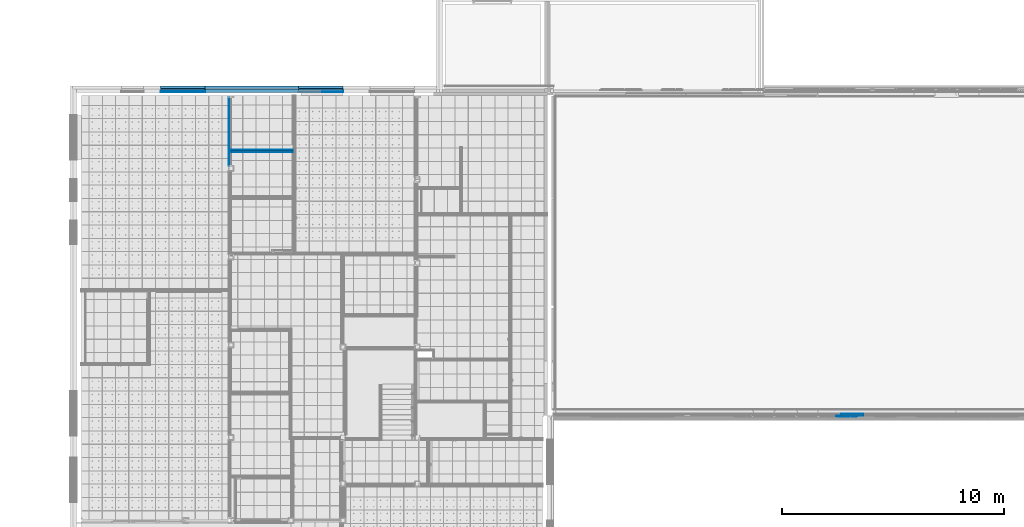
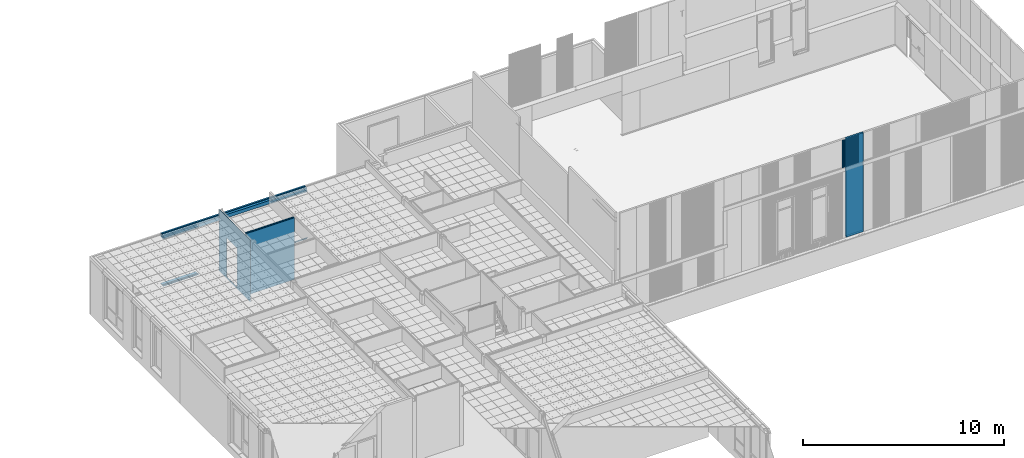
# One storey, part 93 of 338: 28 building element parts, 1 opening, 9 elements without a shape of their own.
"""IFC2X3 building model written with IfcOpenShell, lengths in millimetres."""

from ifc_helpers import new_model, entity, si_unit, converted_unit, derived_unit, money_unit, direction, frame, origin_with_axes, place, context, subcontext, project, spatial, faceted_brep, material, type_object, element, aggregate, save


model = new_model("IFC2X3")

# Units and contexts
model_context = context("Model", 3, precision=0.01, world=origin_with_axes(), true_north=direction((0.0, 1.0)))
plan_context = context("Plan", 3, precision=0.01, world=origin_with_axes(), true_north=direction((0.0, 1.0)))
body_context = subcontext(model_context, "Body", "Model", "MODEL_VIEW")
ifc_project = project(units=[si_unit("LENGTHUNIT", "METRE", prefix="MILLI"), si_unit("AREAUNIT", "SQUARE_METRE"), si_unit("VOLUMEUNIT", "CUBIC_METRE"), converted_unit("PLANEANGLEUNIT", "DEGREE", entity("IfcPlaneAngleMeasure", 0.0174532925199), si_unit("PLANEANGLEUNIT", "RADIAN"), dimensions=[0, 0, 0, 0, 0, 0, 0]), money_unit("EUR"), converted_unit("TIMEUNIT", "Year", entity("IfcTimeMeasure", 31556926.0), si_unit("TIMEUNIT", "SECOND"), dimensions=[0, 0, 1, 0, 0, 0, 0]), si_unit("MASSUNIT", "GRAM", prefix="KILO"), si_unit("THERMODYNAMICTEMPERATUREUNIT", "DEGREE_CELSIUS"), si_unit("LUMINOUSINTENSITYUNIT", "LUMEN"), si_unit("ENERGYUNIT", "JOULE", prefix="MEGA"), derived_unit("THERMALCONDUCTANCEUNIT", [(si_unit("POWERUNIT", "WATT"), 1), (si_unit("LENGTHUNIT", "METRE"), -1), (si_unit("THERMODYNAMICTEMPERATUREUNIT", "KELVIN"), -1)]), derived_unit("SPECIFICHEATCAPACITYUNIT", [(si_unit("ENERGYUNIT", "JOULE"), 1), (si_unit("MASSUNIT", "GRAM", prefix="KILO"), -1), (si_unit("THERMODYNAMICTEMPERATUREUNIT", "KELVIN"), -1)]), derived_unit("MASSDENSITYUNIT", [(si_unit("MASSUNIT", "GRAM", prefix="KILO"), 1), (si_unit("VOLUMEUNIT", "CUBIC_METRE"), -1)])], contexts=[model_context, plan_context])

# Site, building, storey
site_placement = place(None, origin_with_axes())
site = spatial("IfcSite", under=ifc_project, at=site_placement, Name="Fortuinstraat Woensdrecht", CompositionType="ELEMENT")
building_placement = place(site_placement, origin_with_axes())
building = spatial("IfcBuilding", under=site, at=building_placement, Name="IKC Fortuna", CompositionType="ELEMENT")
storey_placement = place(building_placement, origin_with_axes())
storey = spatial("IfcBuildingStorey", under=building, at=storey_placement, Name="00 begane grond", CompositionType="ELEMENT", Elevation=0.0)

# Covering, building element parts
covering_type_1 = type_object("IfcCoveringType", Name="41 Rollaag 280 x 210", PredefinedType="NOTDEFINED")
covering_1_placement = place(storey_placement, frame((23615.4349147, 35636.2966283, 2800.0), z_axis=(0.0, 0.0, 1.0), x_axis=(-1.0, 0.0, 0.0)))
covering_1 = element("IfcCovering", 1, at=covering_1_placement, inside=storey, type_object=covering_type_1, Name="41_Afwerking_Rollaag", PredefinedType="NOTDEFINED")
ifc_material_1 = material(Name="ALG - ISOLATIE")
building_element_part_1_placement = place(covering_1_placement, origin_with_axes())
building_element_part_1 = element("IfcBuildingElementPart", 2, at=building_element_part_1_placement, material=ifc_material_1, Name="ALG - ISOLATIE", context=body_context, shape_type="Brep", body=[
    faceted_brep([(4219.99991757, 0.0, 210.0), (4219.99991757, 140.0, 210.0), (0.0, 140.0, 210.0), (0.0, 0.0, 210.0), (4219.99991757, 0.0, 0.0), (4219.99991757, 140.0, 0.0), (0.0, 140.0, 0.0), (0.0, 0.0, 0.0)], [[[0, 1, 2, 3]], [[0, 4, 5, 1]], [[1, 5, 6, 2]], [[3, 2, 6, 7]], [[4, 0, 3, 7]], [[5, 4, 7, 6]]]),
])
ifc_material_2 = material(Name="Steen - Baksteen Accent Rollaag")
building_element_part_2_placement = place(covering_1_placement, origin_with_axes())
building_element_part_2 = element("IfcBuildingElementPart", 3, at=building_element_part_2_placement, material=ifc_material_2, Name="Steen - Baksteen Accent Rollaag", context=body_context, shape_type="Brep", body=[
    faceted_brep([(0.0, -140.0, 0.0), (4219.99991757, -140.0, 0.0), (4219.99991757, -140.0, 210.0), (0.0, -140.0, 210.0), (0.0, -40.0, 0.0), (4219.99991757, -40.0, 0.0), (4219.99991757, -40.0, 210.0), (0.0, -40.0, 210.0)], [[[0, 1, 2, 3]], [[4, 5, 1, 0]], [[2, 1, 5, 6]], [[3, 2, 6, 7]], [[4, 0, 3, 7]], [[7, 6, 5, 4]]]),
])
aggregate(covering_1, [building_element_part_1, building_element_part_2])

covering_type_2 = type_object("IfcCoveringType", Name="41 Latei MW rollaag 280 x 227", PredefinedType="NOTDEFINED")
covering_2_placement = place(storey_placement, frame((19395.4349971, 35636.2966283, 2800.0), z_axis=(0.0, 0.0, 1.0), x_axis=(-1.0, 0.0, 0.0)))
covering_2 = element("IfcCovering", 4, at=covering_2_placement, inside=storey, type_object=covering_type_2, Name="41_Afwerking_Latei + rollaag", PredefinedType="NOTDEFINED")
ifc_material_3 = material(Name="Isolatie - PUR gespoten")
building_element_part_3_placement = place(covering_2_placement, origin_with_axes())
building_element_part_3 = element("IfcBuildingElementPart", 5, at=building_element_part_3_placement, material=ifc_material_3, Name="Isolatie - PUR gespoten", context=body_context, shape_type="Brep", body=[
    faceted_brep([(2010.0, 139.999999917, -1.28576260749e-07), (2010.0, 127.999998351, -1.28576260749e-07), (0.0, 127.999998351, -1.28576260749e-07), (0.0, 139.999999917, -1.28576260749e-07), (2010.0, 139.999999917, 53.0000002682), (2010.0, 127.999998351, 53.0000013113), (0.0, 127.999998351, 53.0000013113), (0.0, 139.999999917, 53.0000002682)], [[[0, 1, 2, 3]], [[0, 4, 5, 1]], [[1, 5, 6, 2]], [[3, 2, 6, 7]], [[4, 0, 3, 7]], [[5, 4, 7, 6]]]),
])
ifc_material_4 = material(Name="Hout AFW")
building_element_part_4_placement = place(covering_2_placement, origin_with_axes())
building_element_part_4 = element("IfcBuildingElementPart", 6, at=building_element_part_4_placement, material=ifc_material_4, Name="Hout AFW", context=body_context, shape_type="Brep", body=[
    faceted_brep([(2010.0, 127.999998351, -1.28576260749e-07), (2010.0, 127.999998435, -17.0), (0.0, 127.999998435, -17.0), (0.0, 127.999998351, -1.28576260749e-07), (2010.0, 127.999998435, 53.0000013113), (2010.0, 83.9999988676, 53.0000013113), (2010.0, 83.9999988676, -17.0), (0.0, 83.9999988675, -17.0), (0.0, 83.9999988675, 53.0000013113), (0.0, 127.999998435, 53.0000013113)], [[[0, 1, 2, 3]], [[0, 4, 5, 6, 1]], [[1, 6, 7, 2]], [[3, 2, 7, 8, 9]], [[4, 0, 3, 9]], [[5, 4, 9, 8]], [[6, 5, 8, 7]]]),
])
building_element_part_5_placement = place(covering_2_placement, origin_with_axes())
building_element_part_5 = element("IfcBuildingElementPart", 7, at=building_element_part_5_placement, material=ifc_material_1, Name="ALG - ISOLATIE", context=body_context, shape_type="Brep", body=[
    faceted_brep([(2010.0, 83.9999988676, 53.0000013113), (2010.0, 1.06581410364e-10, 53.0), (0.0, 0.0, 53.0), (0.0, 83.9999988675, 53.0000013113), (2010.0, 140.0, 53.0), (2010.0, 140.0, 210.0), (2010.0, 1.06581410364e-10, 210.0), (0.0, 0.0, 210.0), (0.0, 140.0, 210.0), (0.0, 140.0, 53.0)], [[[0, 1, 2, 3]], [[0, 4, 5, 6, 1]], [[1, 6, 7, 2]], [[3, 2, 7, 8, 9]], [[4, 0, 3, 9]], [[5, 4, 9, 8]], [[6, 5, 8, 7]]]),
])
ifc_material_5 = material(Name="Metaal - Staal AFW")
building_element_part_6_placement = place(covering_2_placement, origin_with_axes())
building_element_part_6 = element("IfcBuildingElementPart", 8, at=building_element_part_6_placement, material=ifc_material_5, Name="Metaal - Staal AFW", context=body_context, shape_type="Brep", body=[
    faceted_brep([(0.0, -19.6522464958, 0.0), (0.0, -19.6522464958, 4.0), (0.0, 58.0, 4.0), (0.0, 58.0, 0.0), (2010.0, -19.6522464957, 4.0), (2010.0, -19.6522464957, 0.0), (2010.0, 58.0000000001, 4.0), (2010.0, 58.0000000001, 0.0)], [[[0, 1, 2, 3]], [[4, 1, 0, 5]], [[1, 4, 6, 2]], [[2, 6, 7, 3]], [[5, 0, 3, 7]], [[4, 5, 7, 6]]]),
    faceted_brep([(0.0, -30.0664600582, 4.0), (0.0, -31.7233143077, 0.0), (0.0, -32.0, 0.0), (0.0, -32.0, 4.0), (2010.0, -31.7233143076, 0.0), (2010.0, -30.0664600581, 4.0), (2010.0, -31.9999999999, 0.0), (2010.0, -31.9999999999, 4.0)], [[[0, 1, 2, 3]], [[4, 1, 0, 5]], [[1, 4, 6, 2]], [[2, 6, 7, 3]], [[5, 0, 3, 7]], [[4, 5, 7, 6]]]),
])
building_element_part_7_placement = place(covering_2_placement, origin_with_axes())
building_element_part_7 = element("IfcBuildingElementPart", 9, at=building_element_part_7_placement, material=ifc_material_2, Name="Steen - Baksteen Accent Rollaag", context=body_context, shape_type="Brep", body=[
    faceted_brep([(0.0, -40.0, 210.0), (2010.0, -39.9999999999, 210.0), (2010.0, -39.9999999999, 0.0), (0.0, -40.0, 0.0), (0.0, -140.0, 210.0), (2010.0, -140.0, 210.0), (2010.0, -140.0, 0.0), (2010.0, -115.609685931, 0.0), (0.0, -115.609685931, 0.0), (0.0, -140.0, 0.0)], [[[0, 1, 2, 3]], [[4, 5, 1, 0]], [[2, 1, 5, 6, 7]], [[3, 2, 7, 8]], [[4, 0, 3, 8, 9]], [[9, 6, 5, 4]], [[8, 7, 6, 9]]]),
])
ifc_material_6 = material(Name="Metaal - Staal C")
building_element_part_8_placement = place(covering_2_placement, origin_with_axes())
building_element_part_8 = element("IfcBuildingElementPart", 10, at=building_element_part_8_placement, material=ifc_material_6, Name="Metaal - Staal C", context=body_context, shape_type="Brep", body=[
    faceted_brep([(0.0, -19.6522464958, 117.347753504), (0.0, -19.6522464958, 120.652246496), (0.0, -18.0000000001, 119.0), (2010.0, -19.6522464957, 120.652246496), (2010.0, -19.6522464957, 117.347753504), (2010.0, -18.0, 119.0)], [[[0, 1, 2]], [[3, 1, 0, 4]], [[1, 3, 5, 2]], [[4, 0, 2, 5]], [[3, 4, 5]]]),
    faceted_brep([(2010.0, -29.6522464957, 112.931255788), (0.0, -29.6522464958, 112.931255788), (0.0, -36.0000000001, 106.530733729), (2010.0, -36.0, 106.530733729), (0.0, -29.6522464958, 107.347753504), (2010.0, -29.6522464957, 107.347753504), (0.0, -32.0, 105.0), (0.0, -32.0, 4.0), (0.0, -32.0, 0.0), (0.0, -33.1715728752, -2.82842712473), (0.0, -36.0, -4.0), (0.0, -115.215535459, -4.0), (0.0, -135.215535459, -8.0), (0.0, -136.0, -4.07767729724), (0.0, -115.609685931, 0.0), (0.0, -40.0, 0.0), (0.0, -37.1715728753, 1.17157287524), (0.0, -36.0000000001, 3.99999999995), (2010.0, -36.0, 3.99999999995), (2010.0, -37.1715728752, 1.17157287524), (2010.0, -39.9999999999, 0.0), (2010.0, -115.609685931, 0.0), (2010.0, -136.0, -4.07767729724), (2010.0, -135.215535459, -8.0), (2010.0, -115.215535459, -4.0), (2010.0, -35.9999999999, -4.0), (2010.0, -33.1715728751, -2.82842712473), (2010.0, -31.9999999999, 0.0), (2010.0, -31.9999999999, 4.0), (2010.0, -31.9999999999, 105.0)], [[[0, 1, 2, 3]], [[4, 1, 0, 5]], [[1, 4, 6, 7, 8, 9, 10, 11, 12, 13, 14, 15, 16, 17, 2]], [[17, 18, 3, 2]], [[5, 0, 3, 18, 19, 20, 21, 22, 23, 24, 25, 26, 27, 28, 29]], [[4, 5, 29, 6]], [[6, 29, 28, 7]], [[7, 28, 27, 8]], [[8, 27, 26, 9]], [[9, 26, 25, 10]], [[10, 25, 24, 11]], [[11, 24, 23, 12]], [[12, 23, 22, 13]], [[13, 22, 21, 14]], [[14, 21, 20, 15]], [[15, 20, 19, 16]], [[16, 19, 18, 17]]]),
])
aggregate(covering_2, [building_element_part_3, building_element_part_4, building_element_part_5, building_element_part_6, building_element_part_7, building_element_part_8])

# Wall, opening, building element part
wall_type_1 = type_object("IfcWallType", Name="MS125 2.75.2A 125", PredefinedType="NOTDEFINED")
wall_1_placement = place(storey_placement, frame((20451.9349765, 35284.7966282, -90.0), z_axis=(0.0, 0.0, 1.0), x_axis=(0.0, -1.0, 0.0)))
wall_1 = element("IfcWall", 11, at=wall_1_placement, inside=storey, type_object=wall_type_1, Name="22_Wand_Binnenwand")
opening_placement = place(wall_1_placement, frame((1254.4828999, 0.0, 90.0), z_axis=(0.0, 0.0, 1.0), x_axis=(1.0, 0.0, 0.0)))
element("IfcOpeningElement", 12, at=opening_placement, cuts=wall_1, Name="32_Deur_h.01b", context=body_context, shape_type="Brep", body=[
    faceted_brep([(-517.0, 250.0, 2367.0), (-517.0, 250.0, 0.0), (-517.0, 21.0, 0.0), (-517.0, 21.0, 2367.0), (517.0, 250.0, 2367.0), (517.0, 250.0, 0.0), (517.0, 21.0, 0.0), (517.0, 21.0, 2367.0)], [[[0, 1, 2, 3]], [[0, 4, 5, 1]], [[1, 5, 6, 2]], [[3, 2, 6, 7]], [[4, 0, 3, 7]], [[5, 4, 7, 6]]]),
    faceted_brep([(-517.0, -125.0, 0.0), (-517.0, -125.0, 2367.0), (-517.0, 21.0, 2367.0), (-517.0, 21.0, 0.0), (517.0, -125.0, 0.0), (517.0, -125.0, 2367.0), (517.0, 21.0, 2367.0), (517.0, 21.0, 0.0)], [[[0, 1, 2, 3]], [[0, 4, 5, 1]], [[1, 5, 6, 2]], [[3, 2, 6, 7]], [[4, 0, 3, 7]], [[5, 4, 7, 6]]]),
])
ifc_material_7 = material(Name="Gipsplaat")
building_element_part_9_placement = place(wall_1_placement, origin_with_axes())
building_element_part_9 = element("IfcBuildingElementPart", 13, at=building_element_part_9_placement, material=ifc_material_7, Name="Gipsplaat", context=body_context, shape_type="Brep", body=[
    faceted_brep([(737.482899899, 12.5, 90.0), (737.482899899, 25.0, 90.0), (737.482899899, 25.0, 2457.0), (737.482899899, 12.5, 2457.0), (1771.4828999, 25.0, 90.0), (1771.4828999, 12.5, 90.0), (0.0, 25.0, 0.0), (0.0, 25.0, 3740.0), (3094.99999998, 25.0, 3740.0), (3094.99999998, 25.0, 0.0), (1771.4828999, 25.0, 2457.0), (1771.4828999, 12.5, 2457.0), (0.0, 12.5, 3740.0), (0.0, 12.5, 0.0), (3094.99999998, 12.5, 0.0), (3094.99999998, 12.5, 3740.0)], [[[0, 1, 2, 3]], [[4, 1, 0, 5]], [[6, 7, 8, 9], [4, 10, 2, 1]], [[3, 2, 10, 11]], [[12, 13, 14, 15], [0, 3, 11, 5]], [[10, 4, 5, 11]], [[6, 13, 12, 7]], [[7, 12, 15, 8]], [[9, 8, 15, 14]], [[13, 6, 9, 14]]]),
])
aggregate(wall_1, [building_element_part_9])

# Wall, building element parts
wall_2_placement = place(storey_placement, frame((20569.4349765, 32782.3118503, -90.0), z_axis=(0.0, 0.0, 1.0), x_axis=(1.0, 0.0, 0.0)))
wall_2 = element("IfcWall", 14, at=wall_2_placement, inside=storey, type_object=wall_type_1, Name="22_Wand_Binnenwand")
building_element_part_10_placement = place(wall_2_placement, origin_with_axes())
building_element_part_10 = element("IfcBuildingElementPart", 15, at=building_element_part_10_placement, material=ifc_material_7, Name="Gipsplaat", context=body_context, shape_type="Brep", body=[
    faceted_brep([(2774.92003444, 125.0, 3740.0), (0.0, 125.0, 3740.0), (0.0, 112.5, 3740.0), (2774.92003444, 112.5, 3740.0), (2774.92003444, 125.0, 0.0), (0.0, 125.0, 0.0), (0.0, 112.5, 0.0), (2774.92003444, 112.5, 0.0)], [[[0, 1, 2, 3]], [[4, 5, 1, 0]], [[2, 1, 5, 6]], [[3, 2, 6, 7]], [[3, 7, 4, 0]], [[7, 6, 5, 4]]]),
])
building_element_part_11_placement = place(wall_2_placement, origin_with_axes())
building_element_part_11 = element("IfcBuildingElementPart", 16, at=building_element_part_11_placement, material=ifc_material_7, Name="Gipsplaat", context=body_context, shape_type="Brep", body=[
    faceted_brep([(2774.92003444, 112.5, 3740.0), (0.0, 112.5, 3740.0), (0.0, 100.0, 3740.0), (2774.92003444, 100.0, 3740.0), (2774.92003444, 112.5, 0.0), (0.0, 112.5, 0.0), (0.0, 100.0, 0.0), (2774.92003444, 100.0, 0.0)], [[[0, 1, 2, 3]], [[4, 5, 1, 0]], [[2, 1, 5, 6]], [[3, 2, 6, 7]], [[3, 7, 4, 0]], [[7, 6, 5, 4]]]),
])
ifc_material_8 = material(Name="Isolatie - Steenwol LSW")
building_element_part_12_placement = place(wall_2_placement, origin_with_axes())
building_element_part_12 = element("IfcBuildingElementPart", 17, at=building_element_part_12_placement, material=ifc_material_8, Name="Isolatie - Steenwol LSW", context=body_context, shape_type="Brep", body=[
    faceted_brep([(2774.92003444, 100.0, 3740.0), (0.0, 100.0, 3740.0), (0.0, 25.0, 3740.0), (2774.92003444, 25.0, 3740.0), (2774.92003444, 100.0, 0.0), (0.0, 100.0, 0.0), (0.0, 25.0, 0.0), (2774.92003444, 25.0, 0.0)], [[[0, 1, 2, 3]], [[4, 5, 1, 0]], [[2, 1, 5, 6]], [[3, 2, 6, 7]], [[3, 7, 4, 0]], [[7, 6, 5, 4]]]),
])
building_element_part_13_placement = place(wall_2_placement, origin_with_axes())
building_element_part_13 = element("IfcBuildingElementPart", 18, at=building_element_part_13_placement, material=ifc_material_7, Name="Gipsplaat", context=body_context, shape_type="Brep", body=[
    faceted_brep([(2774.92003444, 25.0, 3740.0), (0.0, 25.0, 3740.0), (0.0, 12.5, 3740.0), (2774.92003444, 12.5, 3740.0), (2774.92003444, 25.0, 0.0), (0.0, 25.0, 0.0), (0.0, 12.5, 0.0), (2774.92003444, 12.5, 0.0)], [[[0, 1, 2, 3]], [[4, 5, 1, 0]], [[2, 1, 5, 6]], [[3, 2, 6, 7]], [[3, 7, 4, 0]], [[7, 6, 5, 4]]]),
])
building_element_part_14_placement = place(wall_2_placement, origin_with_axes())
building_element_part_14 = element("IfcBuildingElementPart", 19, at=building_element_part_14_placement, material=ifc_material_7, Name="Gipsplaat", context=body_context, shape_type="Brep", body=[
    faceted_brep([(2774.92003444, 12.5, 3740.0), (0.0, 12.5, 3740.0), (0.0, 0.0, 3740.0), (2774.92003444, 0.0, 3740.0), (2774.92003444, 12.5, 0.0), (0.0, 12.5, 0.0), (0.0, 0.0, 0.0), (2774.92003444, 0.0, 0.0)], [[[0, 1, 2, 3]], [[4, 5, 1, 0]], [[2, 1, 5, 6]], [[3, 2, 6, 7]], [[3, 7, 4, 0]], [[7, 6, 5, 4]]]),
])
aggregate(wall_2, [building_element_part_10, building_element_part_11, building_element_part_12, building_element_part_13, building_element_part_14])

# Covering, building element parts
covering_3_placement = place(storey_placement, frame((25625.4349147, 35636.2966283, 2800.0), z_axis=(0.0, 0.0, 1.0), x_axis=(-1.0, 0.0, 0.0)))
covering_3 = element("IfcCovering", 20, at=covering_3_placement, inside=storey, type_object=covering_type_2, Name="41_Afwerking_Latei + rollaag", PredefinedType="NOTDEFINED")
building_element_part_15_placement = place(covering_3_placement, origin_with_axes())
building_element_part_15 = element("IfcBuildingElementPart", 21, at=building_element_part_15_placement, material=ifc_material_3, Name="Isolatie - PUR gespoten", context=body_context, shape_type="Brep", body=[
    faceted_brep([(2010.0, 139.999999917, -1.28576260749e-07), (2010.0, 127.999998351, -1.28576260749e-07), (0.0, 127.999998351, -1.28576260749e-07), (0.0, 139.999999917, -1.28576260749e-07), (2010.0, 139.999999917, 53.0000002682), (2010.0, 127.999998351, 53.0000013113), (0.0, 127.999998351, 53.0000013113), (0.0, 139.999999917, 53.0000002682)], [[[0, 1, 2, 3]], [[0, 4, 5, 1]], [[1, 5, 6, 2]], [[3, 2, 6, 7]], [[4, 0, 3, 7]], [[5, 4, 7, 6]]]),
])
building_element_part_16_placement = place(covering_3_placement, origin_with_axes())
building_element_part_16 = element("IfcBuildingElementPart", 22, at=building_element_part_16_placement, material=ifc_material_4, Name="Hout AFW", context=body_context, shape_type="Brep", body=[
    faceted_brep([(2010.0, 127.999998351, -1.28576260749e-07), (2010.0, 127.999998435, -17.0), (0.0, 127.999998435, -17.0), (0.0, 127.999998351, -1.28576260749e-07), (2010.0, 127.999998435, 53.0000013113), (2010.0, 83.9999988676, 53.0000013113), (2010.0, 83.9999988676, -17.0), (0.0, 83.9999988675, -17.0), (0.0, 83.9999988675, 53.0000013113), (0.0, 127.999998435, 53.0000013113)], [[[0, 1, 2, 3]], [[0, 4, 5, 6, 1]], [[1, 6, 7, 2]], [[3, 2, 7, 8, 9]], [[4, 0, 3, 9]], [[5, 4, 9, 8]], [[6, 5, 8, 7]]]),
])
building_element_part_17_placement = place(covering_3_placement, origin_with_axes())
building_element_part_17 = element("IfcBuildingElementPart", 23, at=building_element_part_17_placement, material=ifc_material_1, Name="ALG - ISOLATIE", context=body_context, shape_type="Brep", body=[
    faceted_brep([(2010.0, 83.9999988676, 53.0000013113), (2010.0, 1.06581410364e-10, 53.0), (0.0, 0.0, 53.0), (0.0, 83.9999988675, 53.0000013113), (2010.0, 140.0, 53.0), (2010.0, 140.0, 210.0), (2010.0, 1.06581410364e-10, 210.0), (0.0, 0.0, 210.0), (0.0, 140.0, 210.0), (0.0, 140.0, 53.0)], [[[0, 1, 2, 3]], [[0, 4, 5, 6, 1]], [[1, 6, 7, 2]], [[3, 2, 7, 8, 9]], [[4, 0, 3, 9]], [[5, 4, 9, 8]], [[6, 5, 8, 7]]]),
])
building_element_part_18_placement = place(covering_3_placement, origin_with_axes())
building_element_part_18 = element("IfcBuildingElementPart", 24, at=building_element_part_18_placement, material=ifc_material_5, Name="Metaal - Staal AFW", context=body_context, shape_type="Brep", body=[
    faceted_brep([(0.0, -19.6522464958, 0.0), (0.0, -19.6522464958, 4.0), (0.0, 58.0, 4.0), (0.0, 58.0, 0.0), (2010.0, -19.6522464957, 4.0), (2010.0, -19.6522464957, 0.0), (2010.0, 58.0000000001, 4.0), (2010.0, 58.0000000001, 0.0)], [[[0, 1, 2, 3]], [[4, 1, 0, 5]], [[1, 4, 6, 2]], [[2, 6, 7, 3]], [[5, 0, 3, 7]], [[4, 5, 7, 6]]]),
    faceted_brep([(0.0, -30.0664600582, 4.0), (0.0, -31.7233143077, 0.0), (0.0, -32.0, 0.0), (0.0, -32.0, 4.0), (2010.0, -31.7233143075, 0.0), (2010.0, -30.0664600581, 4.0), (2010.0, -31.9999999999, 0.0), (2010.0, -31.9999999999, 4.0)], [[[0, 1, 2, 3]], [[4, 1, 0, 5]], [[1, 4, 6, 2]], [[2, 6, 7, 3]], [[5, 0, 3, 7]], [[4, 5, 7, 6]]]),
])
building_element_part_19_placement = place(covering_3_placement, origin_with_axes())
building_element_part_19 = element("IfcBuildingElementPart", 25, at=building_element_part_19_placement, material=ifc_material_2, Name="Steen - Baksteen Accent Rollaag", context=body_context, shape_type="Brep", body=[
    faceted_brep([(0.0, -40.0, 210.0), (2010.0, -39.9999999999, 210.0), (2010.0, -39.9999999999, 0.0), (0.0, -40.0, 0.0), (0.0, -140.0, 210.0), (2010.0, -140.0, 210.0), (2010.0, -140.0, 0.0), (2010.0, -115.609685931, 0.0), (0.0, -115.609685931, 0.0), (0.0, -140.0, 0.0)], [[[0, 1, 2, 3]], [[4, 5, 1, 0]], [[2, 1, 5, 6, 7]], [[3, 2, 7, 8]], [[4, 0, 3, 8, 9]], [[9, 6, 5, 4]], [[8, 7, 6, 9]]]),
])
aggregate(covering_3, [building_element_part_15, building_element_part_16, building_element_part_17, building_element_part_18, building_element_part_19])

# Wall, building element parts
wall_type_2 = type_object("IfcWallType", Name="21 sandwich 100", PredefinedType="NOTDEFINED")
wall_3_placement = place(storey_placement, frame((49093.4131798, 20996.2966283, 1000.0), z_axis=(0.0, 0.0, 1.0), x_axis=(-1.0, 0.0, 0.0)))
wall_3 = element("IfcWall", 26, at=wall_3_placement, inside=storey, type_object=wall_type_2, Name="21_Wand_sandwichplaat")
ifc_material_9 = material(Name="Metaal - Aluminium")
building_element_part_20_placement = place(wall_3_placement, origin_with_axes())
building_element_part_20 = element("IfcBuildingElementPart", 27, at=building_element_part_20_placement, material=ifc_material_9, Name="Metaal - Aluminium", context=body_context, shape_type="Brep", body=[
    faceted_brep([(0.0, 99.0, 6000.0), (1000.0, 99.0, 6000.0), (1000.0, 100.0, 6000.0), (0.0, 100.0, 6000.0), (0.0, 99.0, 0.0), (1000.0, 99.0, 0.0), (1000.0, 100.0, 0.0), (0.0, 100.0, 0.0)], [[[0, 1, 2, 3]], [[4, 5, 1, 0]], [[2, 1, 5, 6]], [[3, 2, 6, 7]], [[4, 0, 3, 7]], [[7, 6, 5, 4]]]),
])
ifc_material_10 = material(Name="Isolatie - Kunststof hard")
building_element_part_21_placement = place(wall_3_placement, origin_with_axes())
building_element_part_21 = element("IfcBuildingElementPart", 28, at=building_element_part_21_placement, material=ifc_material_10, Name="Isolatie - Kunststof hard", context=body_context, shape_type="Brep", body=[
    faceted_brep([(1000.0, 1.0, 6000.0), (1000.0, 99.0, 6000.0), (0.0, 99.0, 6000.0), (0.0, 1.0, 6000.0), (1000.0, 1.0, 0.0), (1000.0, 99.0, 0.0), (0.0, 99.0, 0.0), (0.0, 1.0, 0.0)], [[[0, 1, 2, 3]], [[0, 4, 5, 1]], [[1, 5, 6, 2]], [[3, 2, 6, 7]], [[4, 0, 3, 7]], [[5, 4, 7, 6]]]),
])
building_element_part_22_placement = place(wall_3_placement, origin_with_axes())
building_element_part_22 = element("IfcBuildingElementPart", 29, at=building_element_part_22_placement, material=ifc_material_9, Name="Metaal - Aluminium", context=body_context, shape_type="Brep", body=[
    faceted_brep([(1000.0, 1.0, 6000.0), (1000.0, 0.999999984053, 18.9261694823), (0.0, 0.999999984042, 18.9261694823), (0.0, 1.0, 6000.0), (1000.0, 0.0, 18.9263474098), (1000.0, 0.0, 6000.0), (0.0, 0.0, 18.9263474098), (0.0, 0.0, 6000.0)], [[[0, 1, 2, 3]], [[4, 1, 0, 5]], [[1, 4, 6, 2]], [[3, 2, 6, 7]], [[5, 0, 3, 7]], [[4, 5, 7, 6]]]),
])
aggregate(wall_3, [building_element_part_20, building_element_part_21, building_element_part_22])

# Covering, building element part
covering_type_3 = type_object("IfcCoveringType", Name="41 dorpel d bi 280 x 95", PredefinedType="NOTDEFINED")
covering_4_placement = place(storey_placement, frame((24582.4349147, 35636.2966283, -2.5), z_axis=(0.0, 0.0, 1.0), x_axis=(1.0, 0.0, 0.0)))
covering_4 = element("IfcCovering", 30, at=covering_4_placement, inside=storey, type_object=covering_type_3, Name="41_Afwerking_Waterslag", PredefinedType="NOTDEFINED")
building_element_part_23_placement = place(covering_4_placement, origin_with_axes())
building_element_part_23 = element("IfcBuildingElementPart", 31, at=building_element_part_23_placement, material=ifc_material_3, Name="Isolatie - PUR gespoten", context=body_context, shape_type="Brep", body=[
    faceted_brep([(1043.0, -140.0, 2.49999821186), (1043.0, -129.999999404, 2.49999821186), (0.0, -129.999999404, 2.49999821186), (0.0, -140.0, 2.49999821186), (1043.0, -140.0, -72.5), (1043.0, -129.999999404, -72.5), (0.0, -129.999999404, -72.5), (0.0, -140.0, -72.5)], [[[0, 1, 2, 3]], [[0, 4, 5, 1]], [[1, 5, 6, 2]], [[3, 2, 6, 7]], [[4, 0, 3, 7]], [[5, 4, 7, 6]]]),
])
aggregate(covering_4, [building_element_part_23])

# Covering, building element parts
covering_type_4 = type_object("IfcCoveringType", Name="41 dorpel aan peil 280 x 75", PredefinedType="NOTDEFINED")
covering_5_placement = place(storey_placement, frame((17385.4349971, 35636.2963468, -2.5), z_axis=(0.0, 0.0, 1.0), x_axis=(1.0, 0.0, 0.0)))
covering_5 = element("IfcCovering", 32, at=covering_5_placement, inside=storey, type_object=covering_type_4, Name="41_Afwerking_Waterslag", PredefinedType="NOTDEFINED")
ifc_material_11 = material(Name="Steen - Kunststeen")
building_element_part_24_placement = place(covering_5_placement, origin_with_axes())
building_element_part_24 = element("IfcBuildingElementPart", 33, at=building_element_part_24_placement, material=ifc_material_11, Name="Steen - Kunststeen", context=body_context, shape_type="Brep", body=[
    faceted_brep([(2010.0, 140.0, -39.7722078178), (2010.0, 140.0, -72.5), (0.0, 140.0, -72.5), (0.0, 140.0, -39.7722078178), (2010.0, -82.0, -19.5865456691), (2010.0, -82.0, 2.5), (2010.0, -92.0, 2.5), (2010.0, -92.0, -72.5), (0.0, -92.0, -72.5), (0.0, -92.0, 2.5), (0.0, -82.0, 2.5), (0.0, -82.0, -19.5865456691)], [[[0, 1, 2, 3]], [[0, 4, 5, 6, 7, 1]], [[1, 7, 8, 2]], [[3, 2, 8, 9, 10, 11]], [[4, 0, 3, 11]], [[5, 4, 11, 10]], [[6, 5, 10, 9]], [[7, 6, 9, 8]]]),
])
building_element_part_25_placement = place(covering_5_placement, origin_with_axes())
building_element_part_25 = element("IfcBuildingElementPart", 34, at=building_element_part_25_placement, material=ifc_material_4, Name="Hout AFW", context=body_context, shape_type="Brep", body=[
    faceted_brep([(2010.0, -92.0000008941, 2.49999865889), (2010.0, -92.0000008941, -72.5), (0.0, -92.0000008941, -72.5), (0.0, -92.0000008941, 2.49999865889), (2010.0, -130.0, 2.49999865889), (2010.0, -130.0, -72.5), (0.0, -130.0, -72.5), (0.0, -130.0, 2.49999865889)], [[[0, 1, 2, 3]], [[0, 4, 5, 1]], [[1, 5, 6, 2]], [[3, 2, 6, 7]], [[4, 0, 3, 7]], [[5, 4, 7, 6]]]),
])
building_element_part_26_placement = place(covering_5_placement, origin_with_axes())
building_element_part_26 = element("IfcBuildingElementPart", 35, at=building_element_part_26_placement, material=ifc_material_3, Name="Isolatie - PUR gespoten", context=body_context, shape_type="Brep", body=[
    faceted_brep([(2010.0, -129.999999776, -72.5), (2010.0, -139.999999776, -72.5), (0.0, -139.999999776, -72.5), (0.0, -129.999999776, -72.5), (2010.0, -129.999999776, 2.49999888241), (2010.0, -139.999999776, 2.5), (0.0, -139.999999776, 2.5), (0.0, -129.999999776, 2.49999888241)], [[[0, 1, 2, 3]], [[0, 4, 5, 1]], [[1, 5, 6, 2]], [[3, 2, 6, 7]], [[4, 0, 3, 7]], [[5, 4, 7, 6]]]),
])
aggregate(covering_5, [building_element_part_24, building_element_part_25, building_element_part_26])

# Proxy, building element parts
building_element_proxy_type = type_object("IfcBuildingElementProxyType", Name="21 Sandwich custom pyramid 946 x 37", PredefinedType="NOTDEFINED")
proxy_placement = place(storey_placement, frame((48814.9270571, 20896.2966283, 5289.99999237), z_axis=(0.0, 0.0, 1.0), x_axis=(-1.0, 0.0, 0.0)))
proxy = element("IfcBuildingElementProxy", 36, at=proxy_placement, inside=storey, type_object=building_element_proxy_type, Name="41_Generieke bekleding & afwerking buiten_sandwich custom pyramid")
building_element_part_27_placement = place(proxy_placement, origin_with_axes())
building_element_part_27 = element("IfcBuildingElementPart", 37, at=building_element_part_27_placement, material=ifc_material_9, Name="Metaal - Aluminium", context=body_context, shape_type="Brep", body=[
    faceted_brep([(0.0, 2.39999686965, 0.0), (0.0, 1.20000548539, 0.0), (0.0, 1.20000548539, 1690.00000566), (0.0, 2.39999686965, 1690.00000566), (16.7470988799, 2.39999686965, 0.0), (52.0000026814, 36.6736482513, 0.0), (88.487191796, 1.20000548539, 0.0), (107.51282048, 1.20000548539, 0.0), (143.999995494, 36.6736482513, 0.0), (180.487184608, 1.20000548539, 0.0), (199.512813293, 1.20000548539, 0.0), (236.000002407, 36.6736482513, 0.0), (272.487191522, 1.20000548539, 0.0), (291.512820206, 1.20000548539, 0.0), (327.99999522, 36.6736482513, 0.0), (364.487184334, 1.20000548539, 0.0), (383.512813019, 1.20000548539, 0.0), (420.000002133, 36.6736482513, 0.0), (456.487191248, 1.20000548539, 0.0), (460.000006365, 1.20000548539, 0.0), (477.23428491, 1.20000548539, 0.0), (485.472879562, 9.20975302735, 0.0), (486.309372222, 8.34935896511, 0.0), (477.721464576, 0.0, 0.0), (455.999997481, 0.0, 0.0), (420.000002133, 35.0000001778, 0.0), (384.000006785, 0.0, 0.0), (364.000004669, 0.0, 0.0), (327.99999522, 35.0000001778, 0.0), (291.999999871, 0.0, 0.0), (271.999997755, 0.0, 0.0), (236.000002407, 35.0000001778, 0.0), (199.999992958, 0.0, 0.0), (180.000004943, 0.0, 0.0), (143.999995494, 35.0000001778, 0.0), (108.000000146, 0.0, 0.0), (87.9999980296, 0.0, 0.0), (52.0000026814, 35.0000001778, 0.0), (17.2342926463, 1.20000548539, 0.0), (17.2342926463, 1.20000548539, 1690.00000566), (52.0000026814, 35.0000001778, 1690.00000566), (87.9999980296, 0.0, 1690.00000566), (108.000000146, 0.0, 1690.00000566), (143.999995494, 35.0000001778, 1690.00000566), (180.000004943, 0.0, 1690.00000566), (199.999992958, 0.0, 1690.00000566), (236.000002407, 35.0000001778, 1690.00000566), (271.999997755, 0.0, 1690.00000566), (291.999999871, 0.0, 1690.00000566), (327.99999522, 35.0000001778, 1690.00000566), (364.000004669, 0.0, 1690.00000566), (384.000006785, 0.0, 1690.00000566), (420.000002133, 35.0000001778, 1690.00000566), (455.999997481, 0.0, 1690.00000566), (477.721464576, 0.0, 1690.00000566), (486.309372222, 8.34935896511, 1690.00000566), (485.472879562, 9.20975302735, 1690.00000566), (477.23428491, 1.20000548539, 1690.00000566), (460.000006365, 1.20000548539, 1690.00000566), (456.487191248, 1.20000548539, 1690.00000566), (420.000002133, 36.6736482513, 1690.00000566), (383.512813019, 1.20000548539, 1690.00000566), (364.487184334, 1.20000548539, 1690.00000566), (327.99999522, 36.6736482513, 1690.00000566), (291.512820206, 1.20000548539, 1690.00000566), (272.487191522, 1.20000548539, 1690.00000566), (236.000002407, 36.6736482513, 1690.00000566), (199.512813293, 1.20000548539, 1690.00000566), (180.487184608, 1.20000548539, 1690.00000566), (143.999995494, 36.6736482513, 1690.00000566), (107.51282048, 1.20000548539, 1690.00000566), (88.487191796, 1.20000548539, 1690.00000566), (52.0000026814, 36.6736482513, 1690.00000566), (16.7470988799, 2.39999686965, 1690.00000566)], [[[0, 1, 2, 3]], [[0, 4, 5, 6, 7, 8, 9, 10, 11, 12, 13, 14, 15, 16, 17, 18, 19, 20, 21, 22, 23, 24, 25, 26, 27, 28, 29, 30, 31, 32, 33, 34, 35, 36, 37, 38, 1]], [[1, 38, 39, 2]], [[3, 2, 39, 40, 41, 42, 43, 44, 45, 46, 47, 48, 49, 50, 51, 52, 53, 54, 55, 56, 57, 58, 59, 60, 61, 62, 63, 64, 65, 66, 67, 68, 69, 70, 71, 72, 73]], [[4, 0, 3, 73]], [[5, 4, 73, 72]], [[6, 5, 72, 71]], [[7, 6, 71, 70]], [[8, 7, 70, 69]], [[9, 8, 69, 68]], [[10, 9, 68, 67]], [[11, 10, 67, 66]], [[12, 11, 66, 65]], [[13, 12, 65, 64]], [[14, 13, 64, 63]], [[15, 14, 63, 62]], [[16, 15, 62, 61]], [[17, 16, 61, 60]], [[18, 17, 60, 59]], [[19, 18, 59, 58]], [[20, 19, 58, 57]], [[21, 20, 57, 56]], [[22, 21, 56, 55]], [[23, 22, 55, 54]], [[24, 23, 54, 53]], [[25, 24, 53, 52]], [[26, 25, 52, 51]], [[27, 26, 51, 50]], [[28, 27, 50, 49]], [[29, 28, 49, 48]], [[30, 29, 48, 47]], [[31, 30, 47, 46]], [[32, 31, 46, 45]], [[33, 32, 45, 44]], [[34, 33, 44, 43]], [[35, 34, 43, 42]], [[36, 35, 42, 41]], [[37, 36, 41, 40]], [[38, 37, 40, 39]]]),
])
building_element_part_28_placement = place(proxy_placement, origin_with_axes())
building_element_part_28 = element("IfcBuildingElementPart", 38, at=building_element_part_28_placement, material=ifc_material_9, Name="Metaal - Aluminium", context=body_context, shape_type="Brep", body=[
    faceted_brep([(460.0, 1.2, 0.0), (477.234285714, 1.2, 0.0), (477.234285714, 1.2, 1690.00000566), (460.0, 1.2, 1690.00000566), (460.0, 2.4, 0.0), (476.747100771, 2.4, 0.0), (512.0, 36.6736520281, 0.0), (548.487184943, 1.2, 0.0), (567.512815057, 1.2, 0.0), (604.0, 36.6736520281, 0.0), (640.487184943, 1.2, 0.0), (659.512815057, 1.2, 0.0), (696.0, 36.6736520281, 0.0), (732.487184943, 1.2, 0.0), (751.512815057, 1.2, 0.0), (788.0, 36.6736520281, 0.0), (824.487184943, 1.2, 0.0), (843.512815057, 1.2, 0.0), (880.0, 36.6736520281, 0.0), (916.487184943, 1.2, 0.0), (937.234285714, 1.2, 0.0), (945.472884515, 9.20974883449, 0.0), (946.309378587, 8.34935493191, 0.0), (937.721470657, 0.0, 0.0), (916.0, 0.0, 0.0), (880.0, 35.0, 0.0), (844.0, 0.0, 0.0), (824.0, 0.0, 0.0), (788.0, 35.0, 0.0), (752.0, 0.0, 0.0), (732.0, 0.0, 0.0), (696.0, 35.0, 0.0), (660.0, 0.0, 0.0), (640.0, 0.0, 0.0), (604.0, 35.0, 0.0), (568.0, 0.0, 0.0), (548.0, 0.0, 0.0), (512.0, 35.0, 0.0), (485.472879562, 9.20975302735, 0.0), (485.472879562, 9.20975302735, 1690.00000566), (512.0, 35.0, 1690.00000566), (548.0, 0.0, 1690.00000566), (568.0, 0.0, 1690.00000566), (604.0, 35.0, 1690.00000566), (640.0, 0.0, 1690.00000566), (660.0, 0.0, 1690.00000566), (696.0, 35.0, 1690.00000566), (732.0, 0.0, 1690.00000566), (752.0, 0.0, 1690.00000566), (788.0, 35.0, 1690.00000566), (824.0, 0.0, 1690.00000566), (844.0, 0.0, 1690.00000566), (880.0, 35.0, 1690.00000566), (916.0, 0.0, 1690.00000566), (937.721470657, 0.0, 1690.00000566), (946.309378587, 8.34935493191, 1690.00000566), (945.472884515, 9.20974883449, 1690.00000566), (937.234285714, 1.2, 1690.00000566), (916.487184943, 1.2, 1690.00000566), (880.0, 36.6736520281, 1690.00000566), (843.512815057, 1.2, 1690.00000566), (824.487184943, 1.2, 1690.00000566), (788.0, 36.6736520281, 1690.00000566), (751.512815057, 1.2, 1690.00000566), (732.487184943, 1.2, 1690.00000566), (696.0, 36.6736520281, 1690.00000566), (659.512815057, 1.2, 1690.00000566), (640.487184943, 1.2, 1690.00000566), (604.0, 36.6736520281, 1690.00000566), (567.512815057, 1.2, 1690.00000566), (548.487184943, 1.2, 1690.00000566), (512.0, 36.6736520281, 1690.00000566), (476.747100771, 2.4, 1690.00000566), (460.0, 2.4, 1690.00000566)], [[[0, 1, 2, 3]], [[0, 4, 5, 6, 7, 8, 9, 10, 11, 12, 13, 14, 15, 16, 17, 18, 19, 20, 21, 22, 23, 24, 25, 26, 27, 28, 29, 30, 31, 32, 33, 34, 35, 36, 37, 38, 1]], [[1, 38, 39, 2]], [[3, 2, 39, 40, 41, 42, 43, 44, 45, 46, 47, 48, 49, 50, 51, 52, 53, 54, 55, 56, 57, 58, 59, 60, 61, 62, 63, 64, 65, 66, 67, 68, 69, 70, 71, 72, 73]], [[4, 0, 3, 73]], [[5, 4, 73, 72]], [[6, 5, 72, 71]], [[7, 6, 71, 70]], [[8, 7, 70, 69]], [[9, 8, 69, 68]], [[10, 9, 68, 67]], [[11, 10, 67, 66]], [[12, 11, 66, 65]], [[13, 12, 65, 64]], [[14, 13, 64, 63]], [[15, 14, 63, 62]], [[16, 15, 62, 61]], [[17, 16, 61, 60]], [[18, 17, 60, 59]], [[19, 18, 59, 58]], [[20, 19, 58, 57]], [[21, 20, 57, 56]], [[22, 21, 56, 55]], [[23, 22, 55, 54]], [[24, 23, 54, 53]], [[25, 24, 53, 52]], [[26, 25, 52, 51]], [[27, 26, 51, 50]], [[28, 27, 50, 49]], [[29, 28, 49, 48]], [[30, 29, 48, 47]], [[31, 30, 47, 46]], [[32, 31, 46, 45]], [[33, 32, 45, 44]], [[34, 33, 44, 43]], [[35, 34, 43, 42]], [[36, 35, 42, 41]], [[37, 36, 41, 40]], [[38, 37, 40, 39]]]),
])
aggregate(proxy, [building_element_part_27, building_element_part_28])

save(model, "model.ifc")
